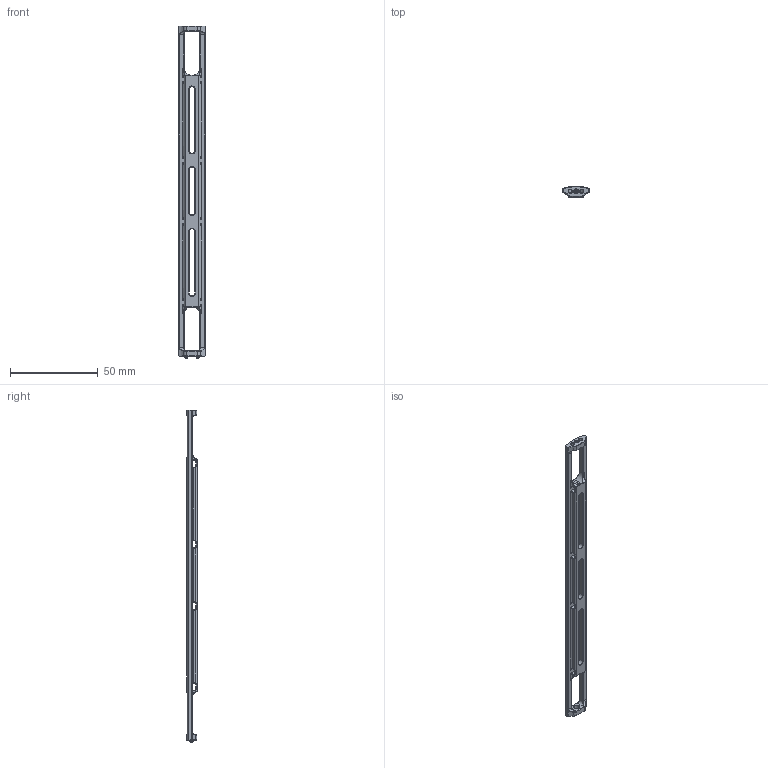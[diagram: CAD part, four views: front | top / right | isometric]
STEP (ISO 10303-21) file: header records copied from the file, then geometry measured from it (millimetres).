
FILE_DESCRIPTION (( 'STEP AP214' ), '1' );
FILE_NAME ('BR-102784-240_Rev_2.step', '2024-12-10T19:11:12', ( '' ), ( '' ), 'SwSTEP 2.0', 'SolidWorks 2024', '' );
FILE_SCHEMA (( 'AUTOMOTIVE_DESIGN' ));
Length unit declared in the file: millimetre
Products named in the file (1): BR-102784-240_Rev_2
Bounding box: 15 x 6.15 x 189 mm (x, y, z)
Volume: 6823.3 mm3; surface area: 7662.8 mm2
Topology: 1 solids, 1 shells, 358 faces, 875 edges, 491 vertices
Faces by surface type: plane 115, cylinder 86, bspline 81, cone 76
Entity records: 25063 total; most frequent: CARTESIAN_POINT 17651, ORIENTED_EDGE 1702, DIRECTION 1242, EDGE_CURVE 851, VERTEX_POINT 491, AXIS2_PLACEMENT_3D 444, EDGE_LOOP 380, FACE_OUTER_BOUND 358
